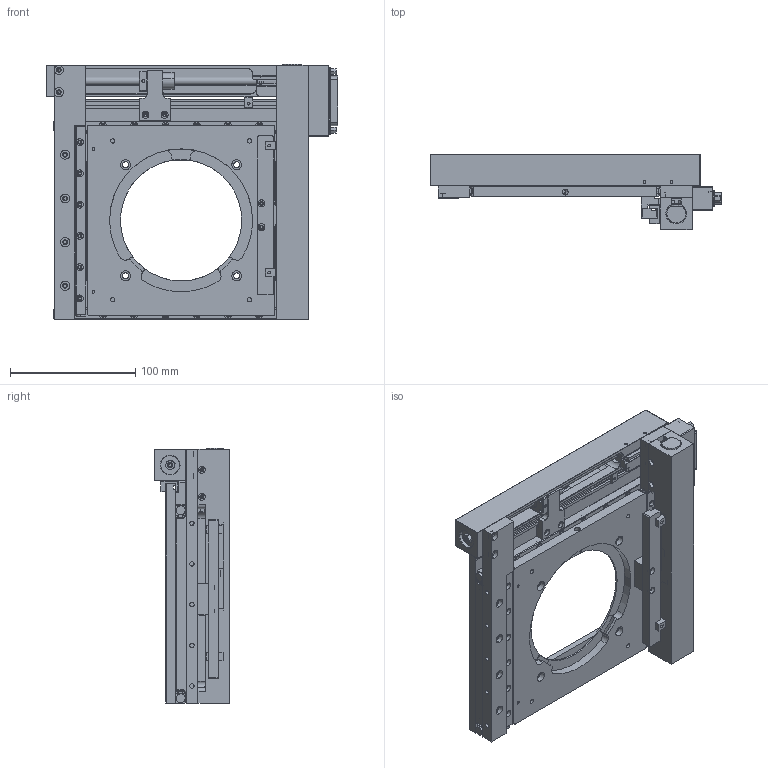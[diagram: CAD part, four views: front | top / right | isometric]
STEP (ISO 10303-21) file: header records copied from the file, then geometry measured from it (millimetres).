
FILE_DESCRIPTION (( 'STEP AP214' ), '1' );
FILE_NAME ('S305-1110B (BX41 MS2000) (CATALOG MODEL).STEP', '2026-03-09T20:17:46', ( '' ), ( '' ), 'SwSTEP 2.0', 'SolidWorks 2025', '' );
FILE_SCHEMA (( 'AUTOMOTIVE_DESIGN' ));
Length unit declared in the file: inch
Products named in the file (1): S305-1110B (BX41 MS2000) (CATALOG MODEL)
Bounding box: 233.36 x 60.33 x 204.15 mm (x, y, z)
Volume: 649556.5 mm3; surface area: 312946.3 mm2
Topology: 62 solids, 62 shells, 2319 faces, 5532 edges, 3437 vertices
Faces by surface type: cylinder 1014, plane 959, cone 273, torus 48, bspline 25
Entity records: 94526 total; most frequent: CARTESIAN_POINT 18983, DIRECTION 11949, ORIENTED_EDGE 10860, EDGE_CURVE 5430, AXIS2_PLACEMENT_3D 4527, VERTEX_POINT 3437, VECTOR 2895, LINE 2895
